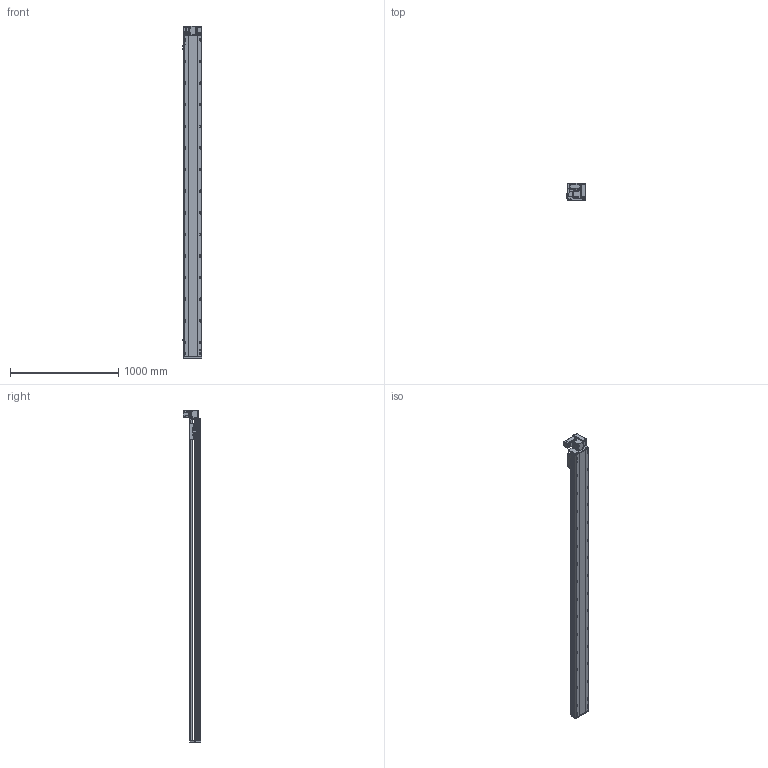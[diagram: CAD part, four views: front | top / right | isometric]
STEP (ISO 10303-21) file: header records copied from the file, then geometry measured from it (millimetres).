
FILE_DESCRIPTION (( 'STEP AP214' ), '1' );
FILE_NAME ('RTB17S-XX-2700-RW-M40-C4.STEP', '2025-12-11T09:15:09', ( '' ), ( '' ), 'SwSTEP 2.0', 'SolidWorks 2018', '' );
FILE_SCHEMA (( 'AUTOMOTIVE_DESIGN' ));
Length unit declared in the file: millimetre
Products named in the file (14): RMP17S-L-014-T20--々湍釱^RTB17S-RW-々湍釱蚾饜-400W_RTB17S-XX-XX-RW-M40-C4; RTB14-L-017P^RTB17S-RW-々湍釱蚾饜-400W_RTB17S-XX-XX-RW-M40-C4; RTB14-L-005P--轴承塑胶压盖^RTB17S-RW-皮带座装配-400W_RTB17S-XX-XX-RW-M40-C4; RTH13-BL-012覜茼え俋离^RTB17S-XX-XX-RW-M40-C4; RTB17S-L-004佪裝蹟譫蟀諉釱^RTB17S-XX-XX-RW-M40-C4; 400W侜督萇儂^RTB17S-XX-XX-RW-M40-C4; OMRON EE-SX672 传感器^RTB17S-XX-XX-RW-M40-C4; RTB14-L-008-M20--萇儂啣^RTB17S-RW-々湍釱蚾饜-400W_RTB17S-XX-XX-RW-M40-C4; RTB17S-RW-々湍釱蚾饜-400W^RTB17S-XX-XX-RW-M40-C4; RTB17S-L-007奻裔^RTB17S-XX-XX-RW-M40-C4; RTB14-L-018P^RTB17S-RW-々湍釱蚾饜-400W_RTB17S-XX-XX-RW-M40-C4; RTB17-R-011菁釱^RTB17S-XX-XX-RW-M40-C4; RTB17S-L-001耜醱啣^RTB17S-XX-XX-RW-M40-C4; RTB17S-XX-2700-RW-M40-C4
Assembly tree (16 placements, depth 3):
  RTB17S-XX-2700-RW-M40-C4
    RTB17-R-011菁釱^RTB17S-XX-XX-RW-M40-C4
    RTB17S-L-007奻裔^RTB17S-XX-XX-RW-M40-C4
    OMRON EE-SX672 传感器^RTB17S-XX-XX-RW-M40-C4  x3
    RTB17S-L-001耜醱啣^RTB17S-XX-XX-RW-M40-C4
    400W侜督萇儂^RTB17S-XX-XX-RW-M40-C4
    RTB17S-L-004佪裝蹟譫蟀諉釱^RTB17S-XX-XX-RW-M40-C4
    RTH13-BL-012覜茼え俋离^RTB17S-XX-XX-RW-M40-C4
    RTB17S-RW-々湍釱蚾饜-400W^RTB17S-XX-XX-RW-M40-C4
      RMP17S-L-014-T20--々湍釱^RTB17S-RW-々湍釱蚾饜-400W_RTB17S-XX-XX-RW-M40-C4
      RTB14-L-005P--轴承塑胶压盖^RTB17S-RW-皮带座装配-400W_RTB17S-XX-XX-RW-M40-C4
      RTB14-L-008-M20--萇儂啣^RTB17S-RW-々湍釱蚾饜-400W_RTB17S-XX-XX-RW-M40-C4
      RTB14-L-017P^RTB17S-RW-々湍釱蚾饜-400W_RTB17S-XX-XX-RW-M40-C4  x2
      RTB14-L-018P^RTB17S-RW-々湍釱蚾饜-400W_RTB17S-XX-XX-RW-M40-C4
Bounding box: 183.5 x 160.5 x 3072.5 mm (x, y, z)
Volume: 26235082.5 mm3; surface area: 3010759.5 mm2
Topology: 15 solids, 15 shells, 2349 faces, 6573 edges, 4293 vertices
Faces by surface type: plane 1086, cylinder 815, bspline 301, cone 139, torus 8
Entity records: 69545 total; most frequent: CARTESIAN_POINT 19778, ORIENTED_EDGE 9990, DIRECTION 9206, EDGE_CURVE 4995, VERTEX_POINT 3281, AXIS2_PLACEMENT_3D 3211, LINE 2784, VECTOR 2784
